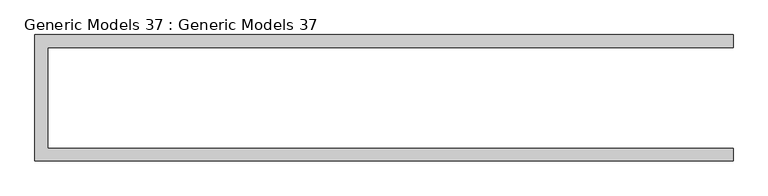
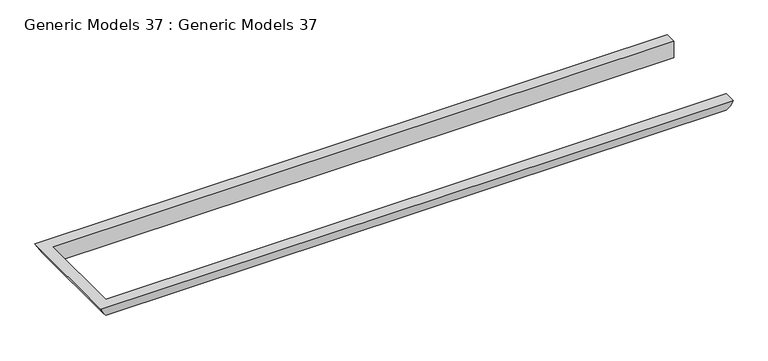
"""IFC4 building model written with IfcOpenShell, lengths in millimetres: proxy geometry, Generic Models 37 : Generic Models 37."""

import ifcopenshell
import ifcopenshell.guid

model = None  # the IFC model being written
_history = None  # IfcOwnerHistory: only IFC2X3 demands one
_inside = {}  # id of a spatial element -> (the spatial element, [elements in it])
_under = {}  # id of a project, library or spatial element -> (it, [spatial elements below it])
_declared = {}  # id of a project -> (the project, [libraries it declares])
_typed = {}  # id of a type object -> (the type object, [elements of that type])
_made_of = {}  # id of a material, layer set ... -> (it, [elements and type objects made of it])


def new_model(schema):
    """Start an empty IFC model of exactly this schema.

    Asked for "IFC4X3", IfcOpenShell would pick the latest addendum, in which some entities
    have other attributes; the version numbers below select the first issue.
    IFC2X3 requires an IfcOwnerHistory on every rooted entity: one is made here for all.
    """
    global model, _history
    if schema == "IFC4X3":
        model = ifcopenshell.file(schema_version=(4, 3, 0, 0))
    else:
        model = ifcopenshell.file(schema=schema)
    _inside.clear()
    _under.clear()
    _declared.clear()
    _typed.clear()
    _made_of.clear()
    _history = None
    if model.schema == "IFC2X3":
        org = make("IfcOrganization", Name="unknown")
        user = make(
            "IfcPersonAndOrganization",
            ThePerson=make("IfcPerson", FamilyName="unknown"),
            TheOrganization=org,
        )
        app = make(
            "IfcApplication",
            ApplicationDeveloper=org,
            Version="unknown",
            ApplicationFullName="unknown",
            ApplicationIdentifier="unknown",
        )
        _history = make(
            "IfcOwnerHistory",
            OwningUser=user,
            OwningApplication=app,
            ChangeAction="ADDED",
            CreationDate=0,
        )
    return model


def make(cls, **values):
    """One entity of the class cls with the attributes given. An attribute that is None is left unset."""
    return model.create_entity(
        cls, **{name: value for name, value in values.items() if value is not None}
    )


def rooted(cls, **values):
    """An entity with a GlobalId (a new one), such as an element, a storey or a relation."""
    return make(cls, GlobalId=ifcopenshell.guid.new(), OwnerHistory=_history, **values)


def si_unit(unit_type, name, prefix=None):
    """IfcSIUnit, for example si_unit("LENGTHUNIT", "METRE", prefix="MILLI")."""
    return make("IfcSIUnit", UnitType=unit_type, Prefix=prefix, Name=name)


def assignment(units):
    """IfcUnitAssignment: the units of a project."""
    return None if units is None else make("IfcUnitAssignment", Units=units)


def point(xyz):
    """IfcCartesianPoint."""
    return None if xyz is None else make("IfcCartesianPoint", Coordinates=xyz)


def direction(xyz):
    """IfcDirection."""
    return None if xyz is None else make("IfcDirection", DirectionRatios=xyz)


def frame(location, z_axis=None, x_axis=None):
    """IfcAxis2Placement3D, a coordinate frame: its origin and axes. An axis left out is left unset."""
    return make(
        "IfcAxis2Placement3D",
        Location=point(location),
        Axis=direction(z_axis),
        RefDirection=direction(x_axis),
    )


def origin():
    """The frame at (0, 0, 0) with its axes left unset."""
    return frame((0.0, 0.0, 0.0))


def place(relative_to, where):
    """IfcLocalPlacement: puts the frame where relative to a parent placement (None: the world)."""
    return make(
        "IfcLocalPlacement", PlacementRelTo=relative_to, RelativePlacement=where
    )


def context(
    kind, dimensions, precision=None, world=None, true_north=None, identifier=None
):
    """IfcGeometricRepresentationContext, for example the 3D "Model" context."""
    return make(
        "IfcGeometricRepresentationContext",
        ContextIdentifier=identifier,
        ContextType=kind,
        CoordinateSpaceDimension=dimensions,
        Precision=precision,
        WorldCoordinateSystem=world,
        TrueNorth=true_north,
    )


def project(units=None, contexts=None):
    """IfcProject with its units and contexts."""
    return rooted(
        "IfcProject",
        Name="project",
        RepresentationContexts=contexts,
        UnitsInContext=assignment(units),
    )


def spatial(cls, under=None, at=None, **own):
    """A site, building, storey or space (cls), placed at a placement, below another one or the project."""
    s = rooted(cls, ObjectPlacement=at, **own)
    if under is not None:
        _under.setdefault(under.id(), (under, []))[1].append(s)
    return s


def circle_curve(where, radius):
    """IfcCircle in the frame where."""
    return make("IfcCircle", Position=where, Radius=radius)


def ellipse_curve(where, semi_axis1, semi_axis2):
    """IfcEllipse in the frame where."""
    return make(
        "IfcEllipse", Position=where, SemiAxis1=semi_axis1, SemiAxis2=semi_axis2
    )


def shape(context_of_items, identifier, shape_type, items):
    """IfcShapeRepresentation: the items that make up one representation, for example the "Body"."""
    return make(
        "IfcShapeRepresentation",
        ContextOfItems=context_of_items,
        RepresentationIdentifier=identifier,
        RepresentationType=shape_type,
        Items=items,
    )


def source(mapping_origin, context_of_items, identifier, shape_type, items):
    """IfcRepresentationMap: a shape defined once, which mapped items show again and again."""
    return make(
        "IfcRepresentationMap",
        MappingOrigin=mapping_origin,
        MappedRepresentation=shape(context_of_items, identifier, shape_type, items),
    )


def transform(
    local_origin,
    x_axis=None,
    y_axis=None,
    z_axis=None,
    scale=None,
    scale2=None,
    scale3=None,
    uniform=True,
):
    """IfcCartesianTransformationOperator3D, or its non-uniform kind. x_axis, y_axis, z_axis: its Axis1, 2, 3."""
    if uniform:
        return make(
            "IfcCartesianTransformationOperator3D",
            Axis1=direction(x_axis),
            Axis2=direction(y_axis),
            LocalOrigin=point(local_origin),
            Scale=scale,
            Axis3=direction(z_axis),
        )
    return make(
        "IfcCartesianTransformationOperator3DnonUniform",
        Axis1=direction(x_axis),
        Axis2=direction(y_axis),
        LocalOrigin=point(local_origin),
        Scale=scale,
        Axis3=direction(z_axis),
        Scale2=scale2,
        Scale3=scale3,
    )


def mapped(mapping_source, mapping_target):
    """IfcMappedItem: shows the shape of a source again, moved by a transform."""
    return make(
        "IfcMappedItem", MappingSource=mapping_source, MappingTarget=mapping_target
    )


def made_of(thing, what):
    """Note that an element or type object is made of a material, layer set ...; save() writes the relation."""
    if what is not None:
        _made_of.setdefault(what.id(), (what, []))[1].append(thing)
    return thing


def element(
    cls,
    number,
    at=None,
    inside=None,
    cuts=None,
    type_object=None,
    material=None,
    context=None,
    identifier="Body",
    shape_type=None,
    held_by="IfcProductDefinitionShape",
    body=None,
    shapes=None,
    **own,
):
    """One element of the class cls, such as IfcWall. Its Tag is "e" and its number.

    at: its placement. inside: the storey or other place that contains it. cuts: it is an
    opening in that element (IfcRelVoidsElement). A single representation is given by context,
    identifier, shape_type and body (its items); several are given by shapes. held_by: the class
    of the entity that holds the representations. save() writes the other relations.
    """
    e = rooted(cls, Tag="e%d" % number, ObjectPlacement=at, **own)
    if body is not None:
        shapes = [shape(context, identifier, shape_type, body)]
    if shapes is not None:
        e.Representation = make(held_by, Representations=shapes)
    if inside is not None:
        _inside.setdefault(inside.id(), (inside, []))[1].append(e)
    if cuts is not None:
        rooted(
            "IfcRelVoidsElement", RelatingBuildingElement=cuts, RelatedOpeningElement=e
        )
    if type_object is not None:
        _typed.setdefault(type_object.id(), (type_object, []))[1].append(e)
    return made_of(e, material)


def aggregate(whole, parts):
    """IfcRelAggregates: a whole, such as a stair, and the parts it consists of."""
    return rooted("IfcRelAggregates", RelatingObject=whole, RelatedObjects=parts)


def save(model, path):
    """Write the relations noted so far, then the file.

    IfcRelAggregates (storeys below a building ...), IfcRelContainedInSpatialStructure (elements
    in a storey), IfcRelDefinesByType, IfcRelAssociatesMaterial and IfcRelDeclares: one each for
    every whole, place, type object, material and project.
    """
    for whole, parts in _under.values():
        aggregate(whole, parts)
    for where, things in _inside.values():
        rooted(
            "IfcRelContainedInSpatialStructure",
            RelatedElements=things,
            RelatingStructure=where,
        )
    for kind, things in _typed.values():
        rooted("IfcRelDefinesByType", RelatedObjects=things, RelatingType=kind)
    for what, things in _made_of.values():
        rooted("IfcRelAssociatesMaterial", RelatedObjects=things, RelatingMaterial=what)
    for by, libraries in _declared.values():
        rooted("IfcRelDeclares", RelatingContext=by, RelatedDefinitions=libraries)
    model.write(path)


def plane_surface(at):
    """IfcPlane: the flat surface through the origin of the frame at, square to its z axis."""
    return make("IfcPlane", Position=at)


def cylinder_surface(at, radius):
    """IfcCylindricalSurface: all points at the distance radius from the z axis of the frame at."""
    return make("IfcCylindricalSurface", Position=at, Radius=radius)


def advanced_brep(points, edges, surfaces, faces):
    """IfcAdvancedBrep: a solid bounded by faces that lie on surfaces and meet in shared edges.

    An edge is (start, end): straight between two places in points (the first is 0);
    or (start, end, curve); or (start, end, curve, False) where it runs against its curve.
    A face is (place in surfaces, loops), or (place, loops, False) where it looks against
    its surface's normal. A loop lists edges by number (the first is 1), with a minus sign
    where the edge is run from its end to its start. The first loop is the outer one.
    """
    corners = [point(p) for p in points]
    vertices = [make("IfcVertexPoint", VertexGeometry=c) for c in corners]
    made = []
    for start, end, *more in edges:
        made.append(
            make(
                "IfcEdgeCurve",
                EdgeStart=vertices[start],
                EdgeEnd=vertices[end],
                EdgeGeometry=more[0] if more else make("IfcPolyline", Points=[corners[start], corners[end]]),
                SameSense=more[1] if len(more) > 1 else True,
            )
        )
    hull = []
    for where, loops, *sense in faces:
        bounds = []
        for j, loop in enumerate(loops):
            ring = [make("IfcOrientedEdge", EdgeElement=made[abs(k) - 1], Orientation=k > 0) for k in loop]
            bounds.append(
                make(
                    "IfcFaceOuterBound" if j == 0 else "IfcFaceBound",
                    Bound=make("IfcEdgeLoop", EdgeList=ring),
                    Orientation=True,
                )
            )
        hull.append(make("IfcAdvancedFace", Bounds=bounds, FaceSurface=surfaces[where], SameSense=sense[0] if sense else True))
    return make("IfcAdvancedBrep", Outer=make("IfcClosedShell", CfsFaces=hull))


def generic_models_37_generic_models_37_c2957d25(model_context):
    return source(origin(), model_context, "Body", "AdvancedBrep", [
        advanced_brep(
        [(2795.4436022, 3263.9176057, 1066.8), (2795.4436022, 3238.5176057, 1066.8), (2795.4436022, 3238.5176057, 1028.7), (1417.513341, 3238.5176057, 1028.7), (1392.113341, 3263.9176057, 1066.8), (1417.513341, 3035.3176057, 1028.7), (1392.113341, 3009.9176057, 1066.8), (2795.4436022, 3009.9176057, 1066.8), (2795.4436022, 3035.3176057, 1028.7), (2795.4436022, 3035.3176057, 1066.8), (1417.513341, 3035.3176057, 1066.8), (1417.513341, 3238.5176057, 1066.8)],
        [
            (0, 1),
            (1, 2),
            (2, 0, circle_curve(frame((2795.4436022, 3121.8949552, 1133.9651003), z_axis=(1.0, 0.0, 0.0), x_axis=(0.0, -1.0, 0.0)), 157.1037363)),
            (2, 3),
            (3, 4, ellipse_curve(frame((1534.1359915, 3121.8949552, 1133.9651003), z_axis=(0.707106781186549, 0.707106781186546, 0.0), x_axis=(0.707106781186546, -0.7071067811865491, 0.0)), 222.1782346, 157.1037363)),
            (4, 0),
            (3, 5),
            (5, 6, ellipse_curve(frame((1534.1359915, 3151.9402562, 1133.9651003), z_axis=(-0.707106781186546, 0.7071067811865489, 0.0), x_axis=(0.7071067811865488, 0.7071067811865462, 0.0)), 222.1782346, 157.1037363)),
            (6, 4),
            (7, 8, circle_curve(frame((2795.4436022, 3151.9402562, 1133.9651003), z_axis=(1.0, 0.0, 0.0), x_axis=(0.0, 1.0, 0.0)), 157.1037363)),
            (8, 9),
            (9, 7),
            (5, 8),
            (7, 6),
            (9, 10),
            (10, 11),
            (11, 1),
            (11, 3),
            (10, 5),
        ],
        [
            plane_surface(frame((2795.4436022, 3238.5176057, 1066.8), z_axis=(1.0, 0.0, 0.0), x_axis=(0.0, 0.0, 1.0))),
            cylinder_surface(frame((2795.4436022, 3121.8949552, 1133.9651003), z_axis=(1.0, 0.0, 0.0), x_axis=(0.0, -1.0, 0.0)), 157.1037363),
            cylinder_surface(frame((1534.1359915, 3238.5176057, 1133.9651003), z_axis=(0.0, 1.0, 0.0), x_axis=(1.0, 0.0, 0.0)), 157.1037363),
            plane_surface(frame((2795.4436022, 3035.3176057, 1066.8), z_axis=(1.0, 0.0, 0.0), x_axis=(0.0, 0.0, 1.0))),
            cylinder_surface(frame((1417.513341, 3151.9402562, 1133.9651003), z_axis=(-1.0, 0.0, 0.0), x_axis=(0.0, 1.0, 0.0)), 157.1037363),
            plane_surface(frame((2795.4436022, 3263.9176057, 1066.8), z_axis=(0.0, 0.0, 1.0), x_axis=(-1.0, 0.0, 0.0))),
            plane_surface(frame((2795.4436022, 3238.5176057, 1066.8), z_axis=(0.0, -1.0, 0.0), x_axis=(-1.0, 0.0, 0.0))),
            plane_surface(frame((1417.513341, 3238.5176057, 1066.8), z_axis=(1.0, 0.0, 0.0), x_axis=(0.0, -1.0, 0.0))),
            plane_surface(frame((1417.513341, 3035.3176057, 1066.8), z_axis=(0.0, 1.0, 0.0), x_axis=(1.0, 0.0, 0.0))),
        ],
        [
            (0, [[1, 2, 3]]),
            (1, [[-3, 4, 5, 6]]),
            (2, [[-5, 7, 8, 9]]),
            (3, [[10, 11, 12]]),
            (4, [[-8, 13, -10, 14]]),
            (5, [[-1, -6, -9, -14, -12, 15, 16, 17]]),
            (6, [[-2, -17, 18, -4]]),
            (7, [[-18, -16, 19, -7]]),
            (8, [[-19, -15, -11, -13]]),
        ],
    ),
    ])


if __name__ == "__main__":
    model = new_model("IFC4")
    model_context = context("Model", 3, world=origin())
    ifc_project = project(units=[si_unit("LENGTHUNIT", "METRE", prefix="MILLI")], contexts=[model_context])
    site = spatial("IfcSite", under=ifc_project)
    building = spatial("IfcBuilding", under=site)
    placement = place(None, origin())
    generic_models_37_generic_models_37_shape = generic_models_37_generic_models_37_c2957d25(model_context)
    element("IfcBuildingElementProxy", 1, Name="Generic Models 37 : Generic Models 37", ObjectType="Generic Models 37 : Generic Models 37", at=placement, inside=building, context=model_context, shape_type="MappedRepresentation", body=[
        mapped(generic_models_37_generic_models_37_shape, transform((0.0, 0.0, 0.0), x_axis=(1.0, 0.0, 0.0), y_axis=(0.0, 1.0, 0.0), z_axis=(0.0, 0.0, 1.0))),
    ])
    save(model, "model.ifc")
